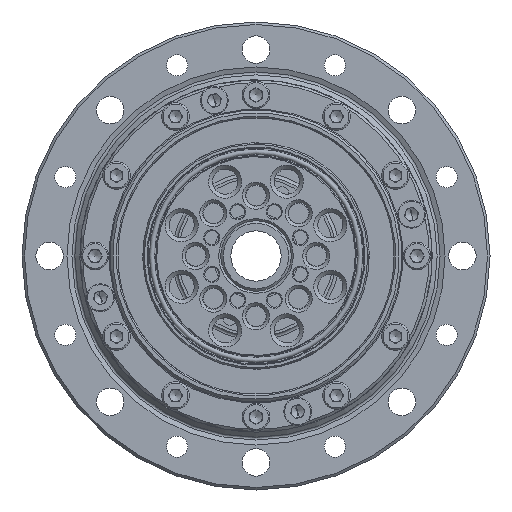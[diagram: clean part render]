
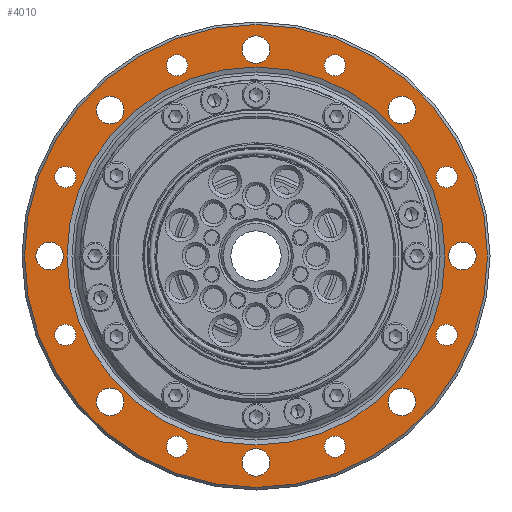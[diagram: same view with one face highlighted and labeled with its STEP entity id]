
A CAD part, left-side view. The second image highlights one B-rep face of the part: STEP entity #4010.
In plain terms, the highlighted planar face has unit normal (-1, 0, 0).
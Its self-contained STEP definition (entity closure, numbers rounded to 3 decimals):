
#4010=ADVANCED_FACE('',(#6061,#6062,#6063,#6064,#6065,#6066,#6067,#6068,
#6069,#6070,#6071,#6072,#6073,#6074,#6075,#6076,#6077,#6078),#5394,.T.);
#5394=PLANE('',#20360);
#6061=FACE_BOUND('',#7878,.T.);
#6062=FACE_BOUND('',#7879,.T.);
#6063=FACE_BOUND('',#7880,.T.);
#6064=FACE_BOUND('',#7881,.T.);
#6065=FACE_BOUND('',#7882,.T.);
#6066=FACE_BOUND('',#7883,.T.);
#6067=FACE_BOUND('',#7884,.T.);
#6068=FACE_BOUND('',#7885,.T.);
#6069=FACE_BOUND('',#7886,.T.);
#6070=FACE_BOUND('',#7887,.T.);
#6071=FACE_BOUND('',#7888,.T.);
#6072=FACE_BOUND('',#7889,.T.);
#6073=FACE_BOUND('',#7890,.T.);
#6074=FACE_BOUND('',#7891,.T.);
#6075=FACE_BOUND('',#7892,.T.);
#6076=FACE_BOUND('',#7893,.T.);
#6077=FACE_BOUND('',#7894,.T.);
#6078=FACE_BOUND('',#7895,.T.);
#7878=EDGE_LOOP('',(#10244));
#7879=EDGE_LOOP('',(#10245));
#7880=EDGE_LOOP('',(#10246));
#7881=EDGE_LOOP('',(#10247));
#7882=EDGE_LOOP('',(#10248));
#7883=EDGE_LOOP('',(#10249));
#7884=EDGE_LOOP('',(#10250));
#7885=EDGE_LOOP('',(#10251));
#7886=EDGE_LOOP('',(#10252));
#7887=EDGE_LOOP('',(#10253));
#7888=EDGE_LOOP('',(#10254));
#7889=EDGE_LOOP('',(#10255));
#7890=EDGE_LOOP('',(#10256));
#7891=EDGE_LOOP('',(#10257));
#7892=EDGE_LOOP('',(#10258));
#7893=EDGE_LOOP('',(#10259));
#7894=EDGE_LOOP('',(#10260));
#7895=EDGE_LOOP('',(#10261));
#10244=ORIENTED_EDGE('',*,*,#16385,.T.);
#10245=ORIENTED_EDGE('',*,*,#16386,.T.);
#10246=ORIENTED_EDGE('',*,*,#16387,.T.);
#10247=ORIENTED_EDGE('',*,*,#16388,.T.);
#10248=ORIENTED_EDGE('',*,*,#16389,.T.);
#10249=ORIENTED_EDGE('',*,*,#16390,.T.);
#10250=ORIENTED_EDGE('',*,*,#16391,.T.);
#10251=ORIENTED_EDGE('',*,*,#16392,.T.);
#10252=ORIENTED_EDGE('',*,*,#16393,.T.);
#10253=ORIENTED_EDGE('',*,*,#16394,.T.);
#10254=ORIENTED_EDGE('',*,*,#16395,.T.);
#10255=ORIENTED_EDGE('',*,*,#16396,.T.);
#10256=ORIENTED_EDGE('',*,*,#16397,.T.);
#10257=ORIENTED_EDGE('',*,*,#16398,.T.);
#10258=ORIENTED_EDGE('',*,*,#16399,.T.);
#10259=ORIENTED_EDGE('',*,*,#16400,.T.);
#10260=ORIENTED_EDGE('',*,*,#16401,.T.);
#10261=ORIENTED_EDGE('',*,*,#16384,.F.);
#14605=VERTEX_POINT('',#29237);
#14606=VERTEX_POINT('',#29240);
#14607=VERTEX_POINT('',#29242);
#14608=VERTEX_POINT('',#29244);
#14609=VERTEX_POINT('',#29246);
#14610=VERTEX_POINT('',#29248);
#14611=VERTEX_POINT('',#29250);
#14612=VERTEX_POINT('',#29252);
#14613=VERTEX_POINT('',#29254);
#14614=VERTEX_POINT('',#29256);
#14615=VERTEX_POINT('',#29258);
#14616=VERTEX_POINT('',#29260);
#14617=VERTEX_POINT('',#29262);
#14618=VERTEX_POINT('',#29264);
#14619=VERTEX_POINT('',#29266);
#14620=VERTEX_POINT('',#29268);
#14621=VERTEX_POINT('',#29270);
#14622=VERTEX_POINT('',#29272);
#16384=EDGE_CURVE('',#14605,#14605,#18696,.T.);
#16385=EDGE_CURVE('',#14606,#14606,#18697,.T.);
#16386=EDGE_CURVE('',#14607,#14607,#18698,.T.);
#16387=EDGE_CURVE('',#14608,#14608,#18699,.T.);
#16388=EDGE_CURVE('',#14609,#14609,#18700,.T.);
#16389=EDGE_CURVE('',#14610,#14610,#18701,.T.);
#16390=EDGE_CURVE('',#14611,#14611,#18702,.T.);
#16391=EDGE_CURVE('',#14612,#14612,#18703,.T.);
#16392=EDGE_CURVE('',#14613,#14613,#18704,.T.);
#16393=EDGE_CURVE('',#14614,#14614,#18705,.T.);
#16394=EDGE_CURVE('',#14615,#14615,#18706,.T.);
#16395=EDGE_CURVE('',#14616,#14616,#18707,.T.);
#16396=EDGE_CURVE('',#14617,#14617,#18708,.T.);
#16397=EDGE_CURVE('',#14618,#14618,#18709,.T.);
#16398=EDGE_CURVE('',#14619,#14619,#18710,.T.);
#16399=EDGE_CURVE('',#14620,#14620,#18711,.T.);
#16400=EDGE_CURVE('',#14621,#14621,#18712,.T.);
#16401=EDGE_CURVE('',#14622,#14622,#18713,.T.);
#18696=CIRCLE('',#20341,37.561);
#18697=CIRCLE('',#20343,2.1);
#18698=CIRCLE('',#20344,2.1);
#18699=CIRCLE('',#20345,2.1);
#18700=CIRCLE('',#20346,2.1);
#18701=CIRCLE('',#20347,2.1);
#18702=CIRCLE('',#20348,2.1);
#18703=CIRCLE('',#20349,2.1);
#18704=CIRCLE('',#20350,2.1);
#18705=CIRCLE('',#20351,2.75);
#18706=CIRCLE('',#20352,2.75);
#18707=CIRCLE('',#20353,2.75);
#18708=CIRCLE('',#20354,2.75);
#18709=CIRCLE('',#20355,2.75);
#18710=CIRCLE('',#20356,2.75);
#18711=CIRCLE('',#20357,2.75);
#18712=CIRCLE('',#20358,2.75);
#18713=CIRCLE('',#20359,46.);
#20341=AXIS2_PLACEMENT_3D('',#29236,#23199,#23200);
#20343=AXIS2_PLACEMENT_3D('',#29239,#23203,#23204);
#20344=AXIS2_PLACEMENT_3D('',#29241,#23205,#23206);
#20345=AXIS2_PLACEMENT_3D('',#29243,#23207,#23208);
#20346=AXIS2_PLACEMENT_3D('',#29245,#23209,#23210);
#20347=AXIS2_PLACEMENT_3D('',#29247,#23211,#23212);
#20348=AXIS2_PLACEMENT_3D('',#29249,#23213,#23214);
#20349=AXIS2_PLACEMENT_3D('',#29251,#23215,#23216);
#20350=AXIS2_PLACEMENT_3D('',#29253,#23217,#23218);
#20351=AXIS2_PLACEMENT_3D('',#29255,#23219,#23220);
#20352=AXIS2_PLACEMENT_3D('',#29257,#23221,#23222);
#20353=AXIS2_PLACEMENT_3D('',#29259,#23223,#23224);
#20354=AXIS2_PLACEMENT_3D('',#29261,#23225,#23226);
#20355=AXIS2_PLACEMENT_3D('',#29263,#23227,#23228);
#20356=AXIS2_PLACEMENT_3D('',#29265,#23229,#23230);
#20357=AXIS2_PLACEMENT_3D('',#29267,#23231,#23232);
#20358=AXIS2_PLACEMENT_3D('',#29269,#23233,#23234);
#20359=AXIS2_PLACEMENT_3D('',#29271,#23235,#23236);
#20360=AXIS2_PLACEMENT_3D('',#29273,#23237,#23238);
#23199=DIRECTION('',(-1.,0.,0.));
#23200=DIRECTION('',(0.,0.,1.));
#23203=DIRECTION('',(1.,0.,0.));
#23204=DIRECTION('',(0.,0.,-1.));
#23205=DIRECTION('',(1.,0.,0.));
#23206=DIRECTION('',(0.,0.,-1.));
#23207=DIRECTION('',(1.,0.,0.));
#23208=DIRECTION('',(0.,0.,-1.));
#23209=DIRECTION('',(1.,0.,0.));
#23210=DIRECTION('',(0.,0.,-1.));
#23211=DIRECTION('',(1.,0.,0.));
#23212=DIRECTION('',(0.,0.,-1.));
#23213=DIRECTION('',(1.,0.,0.));
#23214=DIRECTION('',(0.,0.,-1.));
#23215=DIRECTION('',(1.,0.,0.));
#23216=DIRECTION('',(0.,0.,-1.));
#23217=DIRECTION('',(1.,0.,0.));
#23218=DIRECTION('',(0.,0.,-1.));
#23219=DIRECTION('',(1.,0.,0.));
#23220=DIRECTION('',(0.,0.,-1.));
#23221=DIRECTION('',(1.,0.,0.));
#23222=DIRECTION('',(0.,0.,-1.));
#23223=DIRECTION('',(1.,0.,0.));
#23224=DIRECTION('',(0.,0.,-1.));
#23225=DIRECTION('',(1.,0.,0.));
#23226=DIRECTION('',(0.,0.,-1.));
#23227=DIRECTION('',(1.,0.,0.));
#23228=DIRECTION('',(0.,0.,-1.));
#23229=DIRECTION('',(1.,0.,0.));
#23230=DIRECTION('',(0.,0.,-1.));
#23231=DIRECTION('',(1.,0.,0.));
#23232=DIRECTION('',(0.,0.,-1.));
#23233=DIRECTION('',(1.,0.,0.));
#23234=DIRECTION('',(0.,0.,-1.));
#23235=DIRECTION('',(-1.,0.,0.));
#23236=DIRECTION('',(0.,0.,1.));
#23237=DIRECTION('',(-1.,0.,0.));
#23238=DIRECTION('',(0.,0.,1.));
#29236=CARTESIAN_POINT('',(-10.,0.,0.));
#29237=CARTESIAN_POINT('',(-10.,0.,37.561));
#29239=CARTESIAN_POINT('',(-10.,15.69,37.879));
#29240=CARTESIAN_POINT('',(-10.,15.69,35.779));
#29241=CARTESIAN_POINT('',(-10.,37.879,15.69));
#29242=CARTESIAN_POINT('',(-10.,37.879,13.59));
#29243=CARTESIAN_POINT('',(-10.,37.879,-15.69));
#29244=CARTESIAN_POINT('',(-10.,37.879,-17.79));
#29245=CARTESIAN_POINT('',(-10.,15.69,-37.879));
#29246=CARTESIAN_POINT('',(-10.,15.69,-39.979));
#29247=CARTESIAN_POINT('',(-10.,-15.69,-37.879));
#29248=CARTESIAN_POINT('',(-10.,-15.69,-39.979));
#29249=CARTESIAN_POINT('',(-10.,-37.879,-15.69));
#29250=CARTESIAN_POINT('',(-10.,-37.879,-17.79));
#29251=CARTESIAN_POINT('',(-10.,-37.879,15.69));
#29252=CARTESIAN_POINT('',(-10.,-37.879,13.59));
#29253=CARTESIAN_POINT('',(-10.,-15.69,37.879));
#29254=CARTESIAN_POINT('',(-10.,-15.69,35.779));
#29255=CARTESIAN_POINT('',(-10.,28.991,28.991));
#29256=CARTESIAN_POINT('',(-10.,28.991,26.241));
#29257=CARTESIAN_POINT('',(-10.,41.,0.));
#29258=CARTESIAN_POINT('',(-10.,41.,-2.75));
#29259=CARTESIAN_POINT('',(-10.,28.991,-28.991));
#29260=CARTESIAN_POINT('',(-10.,28.991,-31.741));
#29261=CARTESIAN_POINT('',(-10.,0.,-41.));
#29262=CARTESIAN_POINT('',(-10.,0.,-43.75));
#29263=CARTESIAN_POINT('',(-10.,-28.991,-28.991));
#29264=CARTESIAN_POINT('',(-10.,-28.991,-31.741));
#29265=CARTESIAN_POINT('',(-10.,-41.,0.));
#29266=CARTESIAN_POINT('',(-10.,-41.,-2.75));
#29267=CARTESIAN_POINT('',(-10.,-28.991,28.991));
#29268=CARTESIAN_POINT('',(-10.,-28.991,26.241));
#29269=CARTESIAN_POINT('',(-10.,0.,41.));
#29270=CARTESIAN_POINT('',(-10.,0.,38.25));
#29271=CARTESIAN_POINT('',(-10.,0.,0.));
#29272=CARTESIAN_POINT('',(-10.,0.,46.));
#29273=CARTESIAN_POINT('',(-10.,0.,37.561));
